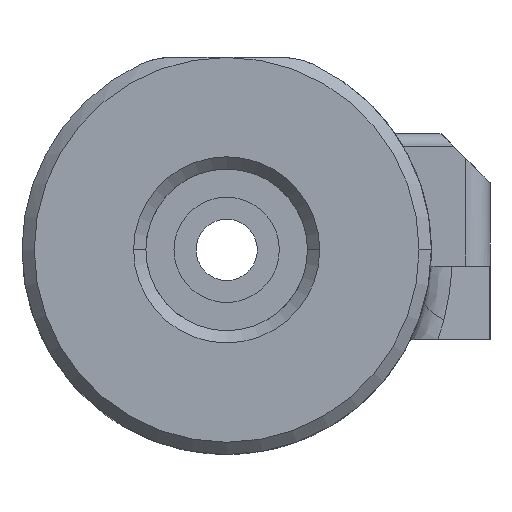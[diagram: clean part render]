
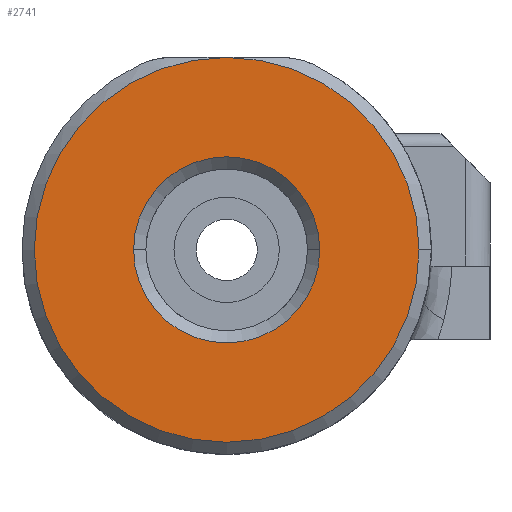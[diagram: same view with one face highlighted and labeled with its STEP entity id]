
A CAD part, left-side view. The second image highlights one B-rep face of the part: STEP entity #2741.
In plain terms, the highlighted planar face has unit normal (-1, 0, 0).
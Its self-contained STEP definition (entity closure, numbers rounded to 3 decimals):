
#658=CARTESIAN_POINT('',(-33.5,55.25,3.661));
#659=DIRECTION('',(1.,0.,0.));
#660=DIRECTION('',(0.,0.,1.));
#661=AXIS2_PLACEMENT_3D('',#658,#659,#660);
#663=CARTESIAN_POINT('',(-33.5,55.25,3.661));
#664=DIRECTION('',(1.,0.,0.));
#665=DIRECTION('',(0.,-1.,0.));
#666=AXIS2_PLACEMENT_3D('',#663,#664,#665);
#668=CARTESIAN_POINT('',(-33.5,55.25,3.661));
#669=DIRECTION('',(1.,0.,0.));
#670=DIRECTION('',(0.,0.,-1.));
#671=AXIS2_PLACEMENT_3D('',#668,#669,#670);
#673=CARTESIAN_POINT('',(-33.5,55.25,3.661));
#674=DIRECTION('',(-1.,0.,0.));
#675=DIRECTION('',(0.,1.,0.));
#676=AXIS2_PLACEMENT_3D('',#673,#674,#675);
#678=CARTESIAN_POINT('',(-33.5,55.25,3.661));
#679=DIRECTION('',(-1.,0.,0.));
#680=DIRECTION('',(0.,0.,-1.));
#681=AXIS2_PLACEMENT_3D('',#678,#679,#680);
#683=CARTESIAN_POINT('',(-33.5,55.25,3.661));
#684=DIRECTION('',(-1.,0.,0.));
#685=DIRECTION('',(0.,-1.,0.));
#686=AXIS2_PLACEMENT_3D('',#683,#684,#685);
#688=CARTESIAN_POINT('',(-33.5,55.25,3.661));
#689=DIRECTION('',(-1.,0.,0.));
#690=DIRECTION('',(0.,0.,1.));
#691=AXIS2_PLACEMENT_3D('',#688,#689,#690);
#1785=CARTESIAN_POINT('',(-33.5,47.395,3.661));
#1786=VERTEX_POINT('',#1785);
#1787=CARTESIAN_POINT('',(-33.5,55.25,11.516));
#1788=VERTEX_POINT('',#1787);
#1789=CARTESIAN_POINT('',(-33.5,55.25,-4.193));
#1790=VERTEX_POINT('',#1789);
#1791=CARTESIAN_POINT('',(-33.5,55.25,-0.139));
#1792=CARTESIAN_POINT('',(-33.5,51.45,3.661));
#1793=VERTEX_POINT('',#1791);
#1794=VERTEX_POINT('',#1792);
#1795=CARTESIAN_POINT('',(-33.5,59.05,3.661));
#1796=VERTEX_POINT('',#1795);
#1797=CARTESIAN_POINT('',(-33.5,55.25,7.461));
#1798=VERTEX_POINT('',#1797);
#2721=CARTESIAN_POINT('',(-33.5,49.,0.));
#2722=DIRECTION('',(1.,0.,0.));
#2723=DIRECTION('',(0.,1.,0.));
#2724=AXIS2_PLACEMENT_3D('',#2721,#2722,#2723);
#2725=PLANE('',#2724);
#2726=ORIENTED_EDGE('',*,*,#2681,.T.);
#2727=ORIENTED_EDGE('',*,*,#2698,.T.);
#2728=ORIENTED_EDGE('',*,*,#2696,.T.);
#2729=EDGE_LOOP('',(#2726,#2727,#2728));
#2730=FACE_OUTER_BOUND('',#2729,.F.);
#2732=ORIENTED_EDGE('',*,*,#2731,.T.);
#2734=ORIENTED_EDGE('',*,*,#2733,.T.);
#2736=ORIENTED_EDGE('',*,*,#2735,.T.);
#2738=ORIENTED_EDGE('',*,*,#2737,.T.);
#2739=EDGE_LOOP('',(#2732,#2734,#2736,#2738));
#2740=FACE_BOUND('',#2739,.F.);
#2741=ADVANCED_FACE('',(#2730,#2740),#2725,.F.);
#662=CIRCLE('',#661,7.855);
#667=CIRCLE('',#666,7.855);
#672=CIRCLE('',#671,7.855);
#677=CIRCLE('',#676,3.8);
#682=CIRCLE('',#681,3.8);
#687=CIRCLE('',#686,3.8);
#692=CIRCLE('',#691,3.8);
#2681=EDGE_CURVE('',#1788,#1786,#662,.T.);
#2696=EDGE_CURVE('',#1790,#1788,#672,.T.);
#2698=EDGE_CURVE('',#1786,#1790,#667,.T.);
#2731=EDGE_CURVE('',#1796,#1793,#677,.T.);
#2733=EDGE_CURVE('',#1793,#1794,#682,.T.);
#2735=EDGE_CURVE('',#1794,#1798,#687,.T.);
#2737=EDGE_CURVE('',#1798,#1796,#692,.T.);
